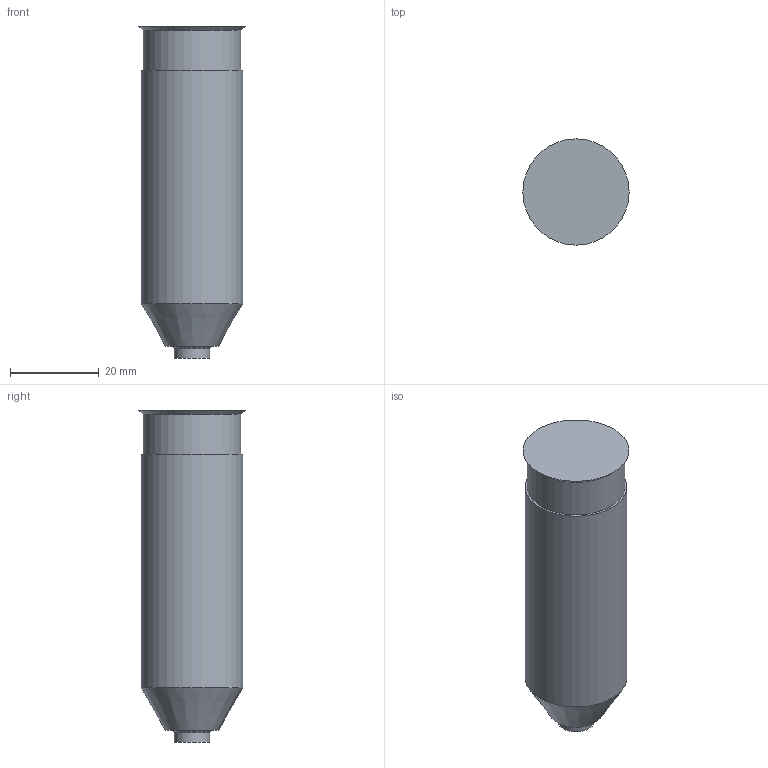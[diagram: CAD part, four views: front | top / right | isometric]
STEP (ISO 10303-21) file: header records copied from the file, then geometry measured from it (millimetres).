
FILE_DESCRIPTION(('STEP AP214'),'1');
FILE_NAME('SEDE IPM150-C.stp','2018-06-12T13:24:07',(' '),(' '),'Spatial InterOp 3D',' ',' ');
FILE_SCHEMA(('AUTOMOTIVE_DESIGN { 1 0 10303 214 1 1 1 1 }'));
Length unit declared in the file: millimetre
Products named in the file (1): 1
Bounding box: 24 x 24 x 75 mm (x, y, z)
Volume: 28268.9 mm3; surface area: 5803.9 mm2
Topology: 1 solids, 1 shells, 10 faces, 15 edges, 9 vertices
Faces by surface type: plane 4, cone 3, cylinder 3
Full cylindrical faces by diameter (mm): 8 x1, 22 x1, 23 x1
Entity records: 291 total; most frequent: DIRECTION 40, CARTESIAN_POINT 29, AXIS2_PLACEMENT_3D 20, EDGE_LOOP 18, ORIENTED_EDGE 18, FACE_OUTER_BOUND 13, STYLED_ITEM 10, PRESENTATION_STYLE_ASSIGNMENT 10
